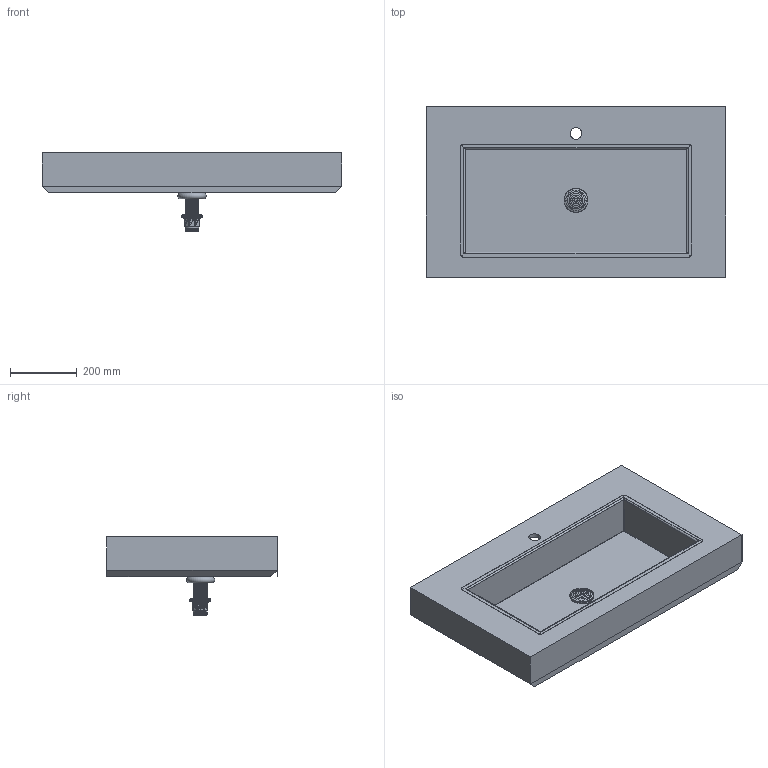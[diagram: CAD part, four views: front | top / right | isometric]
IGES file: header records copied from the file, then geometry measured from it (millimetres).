
Start section: Data from Parasolid IGES Translator 19.0.9, Copyright(c) 2006 Siemens PL M Software. All Rights Reserved.
Global section: file name: noorth-top-H 11,9 D 51,3 W 90_6559.igs; native system: By Siemens PLM Incorporated; preprocessor: XPlus GENERIC/IGES 19.0.9; author: Noname; organization: Noname; date: 20200603.105326; units: metre
Bounding box: 900 x 512 x 235.2 mm (x, y, z)
Volume: 6611408.2 mm3; surface area: 1929956.7 mm2
Topology: 2 solids, 2 shells, 11742 faces, 35142 edges, 35022 vertices
Faces by surface type: extrusion 11618, plane 70, cylinder 28, bspline 20, torus 4, cone 2
Full cylindrical faces by diameter (mm): 34.9 x1, 42 x1, 46 x1, 47.6 x1
